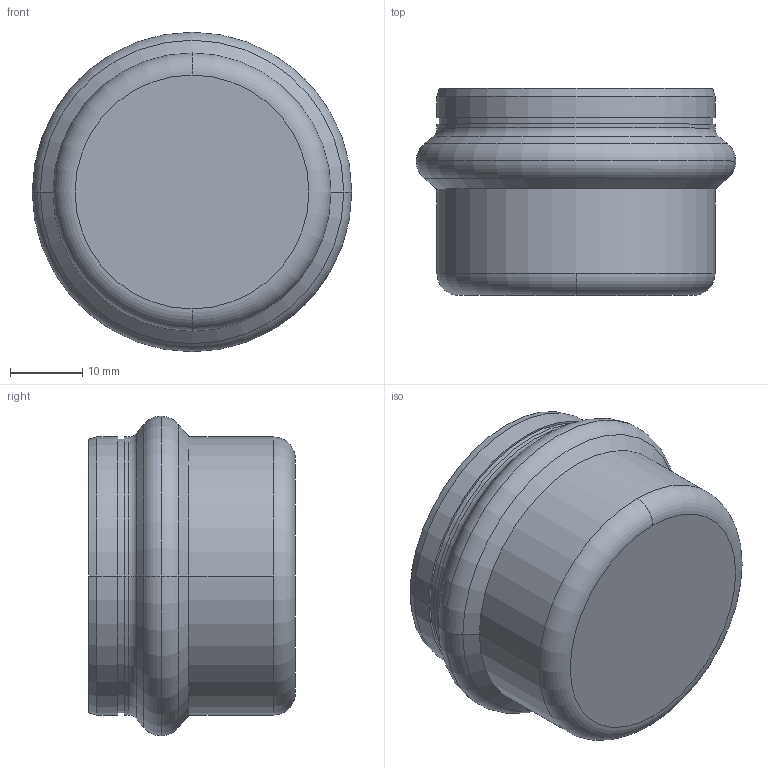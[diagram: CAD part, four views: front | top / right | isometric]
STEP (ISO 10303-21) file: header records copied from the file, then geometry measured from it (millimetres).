
FILE_DESCRIPTION(('CoCreate Modeling STEP Export'),'2;1');
FILE_NAME('8301VW35.stp','2013-03-05T13:29:26',(''),(''),'CoCreate Modeling STEP processor for AP214 (Solid Model)','CoCreate Modeling 17.00A 17-Jun-2010 (C) Parametric Technology GmbH','');
FILE_SCHEMA(('AUTOMOTIVE_DESIGN { 1 0 10303 214 1 1 1 1 }'));
Length unit declared in the file: millimetre
Products named in the file (1): 8301VW35
Bounding box: 44.13 x 28.55 x 44.13 mm (x, y, z)
Volume: 8512.6 mm3; surface area: 9292.6 mm2
Topology: 1 solids, 1 shells, 40 faces, 81 edges, 49 vertices
Faces by surface type: cylinder 16, plane 8, torus 8, cone 8
Entity records: 869 total; most frequent: ORIENTED_EDGE 162, DIRECTION 134, CARTESIAN_POINT 128, EDGE_CURVE 81, AXIS2_PLACEMENT_3D 55, VERTEX_POINT 49, EDGE_LOOP 46, FACE_OUTER_BOUND 40
